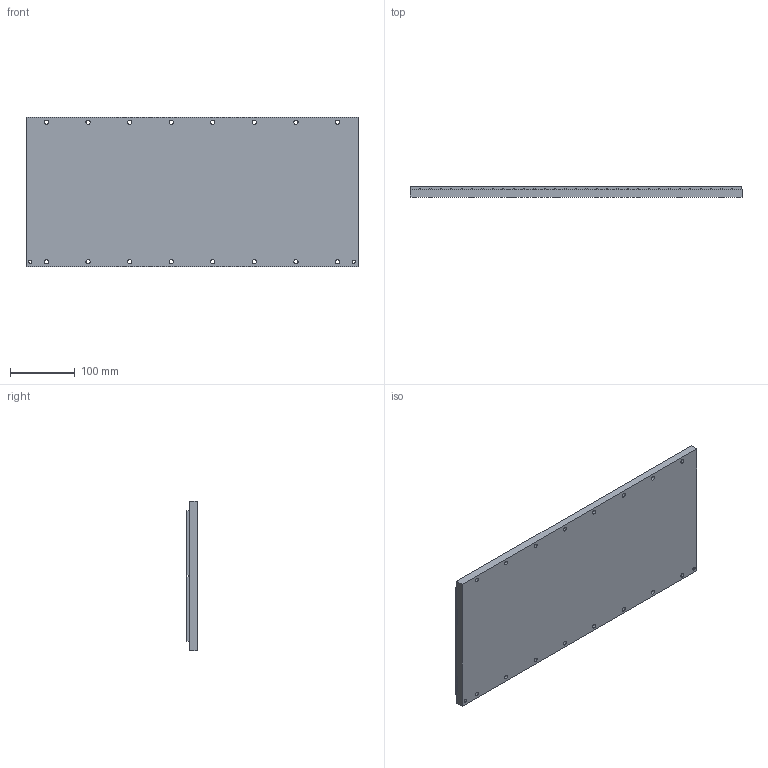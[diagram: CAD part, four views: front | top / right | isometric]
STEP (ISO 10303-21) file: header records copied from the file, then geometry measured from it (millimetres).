
FILE_DESCRIPTION((''),'2;1');
FILE_NAME('MC200-0512-WC','2007-01-14T',('saurabh.singhal'),(''),'PRO/ENGINEER BY PARAMETRIC TECHNOLOGY CORPORATION, 2005450','PRO/ENGINEER BY PARAMETRIC TECHNOLOGY CORPORATION, 2005450','');
FILE_SCHEMA(('CONFIG_CONTROL_DESIGN'));
Length unit declared in the file: millimetre
Products named in the file (1): MC200-0512-WC
Bounding box: 511.3 x 16.4 x 230 mm (x, y, z)
Volume: 1785036.8 mm3; surface area: 531194.7 mm2
Topology: 1 solids, 1 shells, 418 faces, 1008 edges, 672 vertices
Faces by surface type: plane 350, cylinder 68
Entity records: 12162 total; most frequent: CARTESIAN_POINT 2098, ORIENTED_EDGE 2016, DIRECTION 1980, EDGE_CURVE 1008, VECTOR 872, LINE 872, VERTEX_POINT 672, AXIS2_PLACEMENT_3D 554
